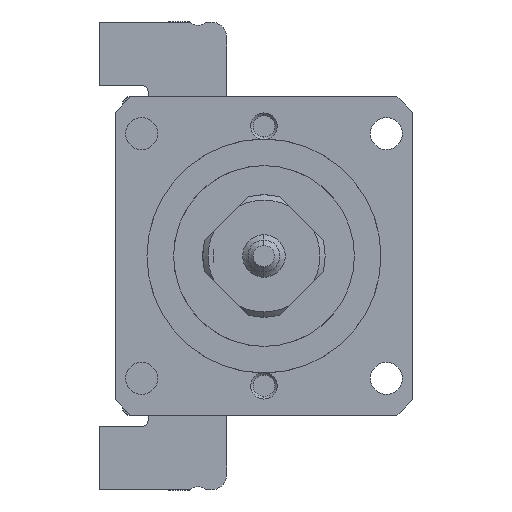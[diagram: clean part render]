
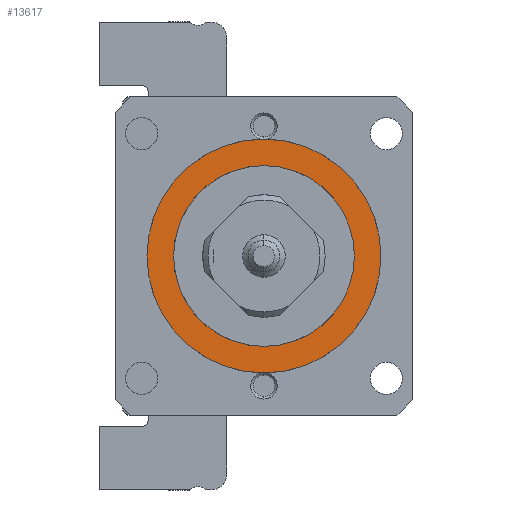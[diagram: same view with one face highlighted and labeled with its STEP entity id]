
A CAD part, left-side view. The second image highlights one B-rep face of the part: STEP entity #13617.
In plain terms, the highlighted planar face has unit normal (-1, 0, 0).
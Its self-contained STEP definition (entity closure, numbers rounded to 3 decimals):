
#1574 = CARTESIAN_POINT ( 'NONE',  ( -48., 0., 0. ) ) ;
#1575 = DIRECTION ( 'NONE',  ( -1., 0., 0. ) ) ;
#1576 = DIRECTION ( 'NONE',  ( 0., 0., 1. ) ) ;
#1695 = CARTESIAN_POINT ( 'NONE',  ( -48., 0., 0. ) ) ;
#1696 = DIRECTION ( 'NONE',  ( -1., 0., 0. ) ) ;
#1697 = DIRECTION ( 'NONE',  ( 0., 0., 1. ) ) ;
#1728 = CARTESIAN_POINT ( 'NONE',  ( -48., 0., -8.5 ) ) ;
#1729 = CARTESIAN_POINT ( 'NONE',  ( -48., 0., 8.5 ) ) ;
#3703 = CIRCLE ( 'NONE', #7307, 8.5 ) ;
#3708 = CIRCLE ( 'NONE', #7310, 8.5 ) ;
#3740 = CIRCLE ( 'NONE', #7326, 11. ) ;
#6847 = VERTEX_POINT ( 'NONE', #1728 ) ;
#6848 = VERTEX_POINT ( 'NONE', #1729 ) ;
#7286 = AXIS2_PLACEMENT_3D ( 'NONE', #1574, #1575, #1576 ) ;
#7307 = AXIS2_PLACEMENT_3D ( 'NONE', #1695, #1696, #1697 ) ;
#7310 = AXIS2_PLACEMENT_3D ( 'NONE', #16964, #16965, #16966 ) ;
#7326 = AXIS2_PLACEMENT_3D ( 'NONE', #17028, #17029, #17030 ) ;
#8308 = EDGE_LOOP ( 'NONE', ( #12089, #12088 ) ) ;
#8309 = EDGE_LOOP ( 'NONE', ( #12091, #12090 ) ) ;
#9907 = PLANE ( 'NONE',  #20289 ) ;
#9908 = CARTESIAN_POINT ( 'NONE',  ( -48., 9.75, 0. ) ) ;
#9909 = DIRECTION ( 'NONE',  ( 1., 0., 0. ) ) ;
#9910 = DIRECTION ( 'NONE',  ( 0., 0., -1. ) ) ;
#10250 = FACE_BOUND ( 'NONE', #8308, .T. ) ;
#10251 = FACE_OUTER_BOUND ( 'NONE', #8309, .T. ) ;
#12088 = ORIENTED_EDGE ( 'NONE', *, *, #14900, .F. ) ;
#12089 = ORIENTED_EDGE ( 'NONE', *, *, #14904, .F. ) ;
#12090 = ORIENTED_EDGE ( 'NONE', *, *, #14852, .T. ) ;
#12091 = ORIENTED_EDGE ( 'NONE', *, *, #14928, .T. ) ;
#13617 = ADVANCED_FACE ( 'NONE', ( #10251, #10250 ), #9907, .F. ) ;
#14852 = EDGE_CURVE ( 'NONE', #15788, #15789, #18667, .T. ) ;
#14900 = EDGE_CURVE ( 'NONE', #6847, #6848, #3703, .T. ) ;
#14904 = EDGE_CURVE ( 'NONE', #6848, #6847, #3708, .T. ) ;
#14928 = EDGE_CURVE ( 'NONE', #15789, #15788, #3740, .T. ) ;
#15788 = VERTEX_POINT ( 'NONE', #17556 ) ;
#15789 = VERTEX_POINT ( 'NONE', #17557 ) ;
#16964 = CARTESIAN_POINT ( 'NONE',  ( -48., 0., 0. ) ) ;
#16965 = DIRECTION ( 'NONE',  ( -1., 0., 0. ) ) ;
#16966 = DIRECTION ( 'NONE',  ( 0., 0., 1. ) ) ;
#17028 = CARTESIAN_POINT ( 'NONE',  ( -48., 0., 0. ) ) ;
#17029 = DIRECTION ( 'NONE',  ( -1., 0., 0. ) ) ;
#17030 = DIRECTION ( 'NONE',  ( 0., 0., 1. ) ) ;
#17556 = CARTESIAN_POINT ( 'NONE',  ( -48., 0., -11. ) ) ;
#17557 = CARTESIAN_POINT ( 'NONE',  ( -48., 0., 11. ) ) ;
#18667 = CIRCLE ( 'NONE', #7286, 11. ) ;
#20289 = AXIS2_PLACEMENT_3D ( 'NONE', #9908, #9909, #9910 ) ;
